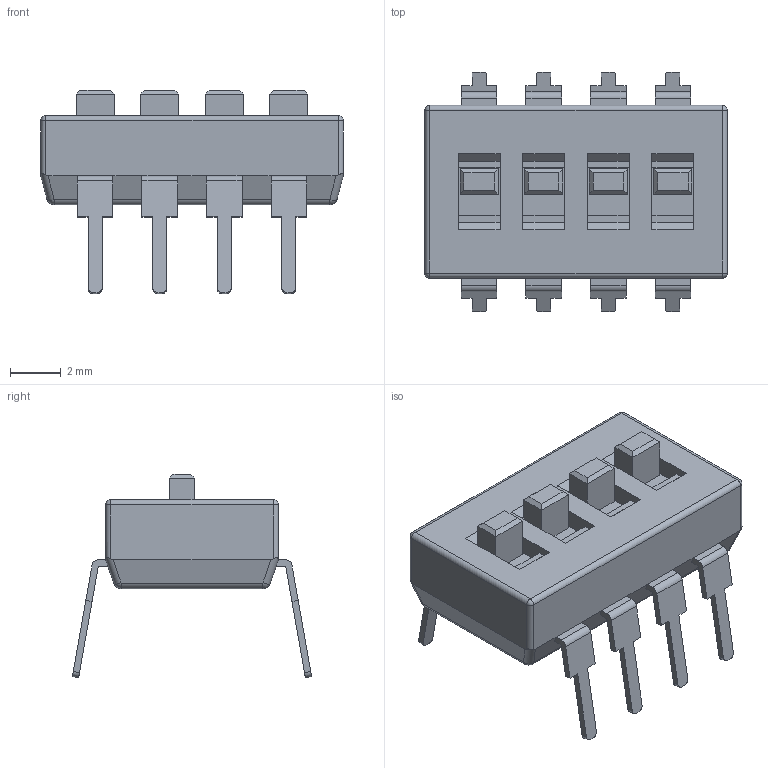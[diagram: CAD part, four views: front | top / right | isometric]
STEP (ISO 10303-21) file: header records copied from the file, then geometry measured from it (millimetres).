
FILE_DESCRIPTION (( 'STEP AP214' ), '1' );
FILE_NAME ('SSGM140100 221117修正版.STEP', '2022-11-17T07:08:31', ( '' ), ( '' ), 'SwSTEP 2.0', 'SolidWorks 2021', '' );
FILE_SCHEMA (( 'AUTOMOTIVE_DESIGN' ));
Length unit declared in the file: millimetre
Products named in the file (1): SSGM140100 221117修正版
Bounding box: 11.9 x 9.41 x 8 mm (x, y, z)
Volume: 282.9 mm3; surface area: 416.2 mm2
Topology: 1 solids, 1 shells, 218 faces, 572 edges, 360 vertices
Faces by surface type: plane 170, cylinder 40, sphere 8
Entity records: 7734 total; most frequent: CARTESIAN_POINT 1221, ORIENTED_EDGE 1136, DIRECTION 1066, EDGE_CURVE 568, LINE 484, VECTOR 484, VERTEX_POINT 360, AXIS2_PLACEMENT_3D 291
